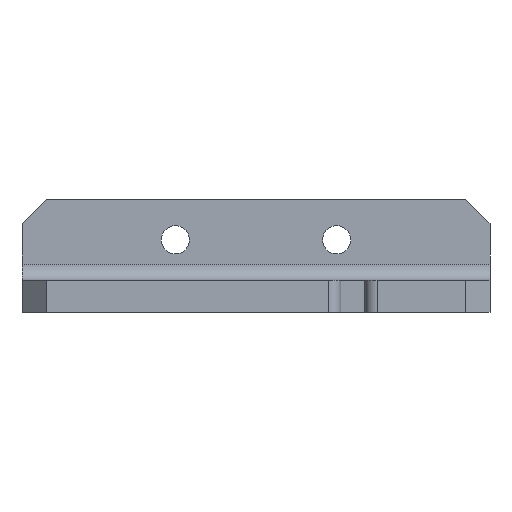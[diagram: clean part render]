
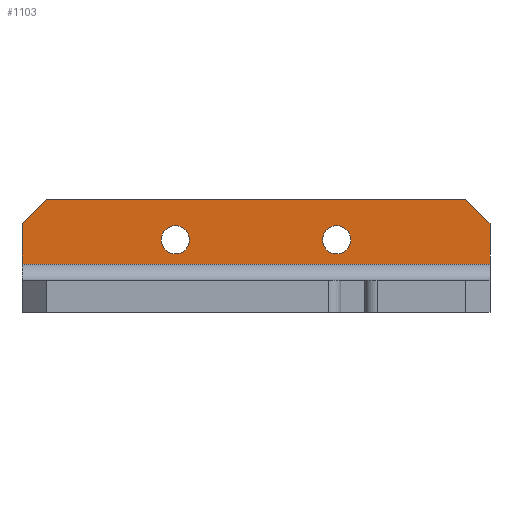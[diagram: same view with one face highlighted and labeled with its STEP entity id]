
A CAD part, front view. The second image highlights one B-rep face of the part: STEP entity #1103.
In plain terms, the highlighted planar face has unit normal (0, -1, 0).
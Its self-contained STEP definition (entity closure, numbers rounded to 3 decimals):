
#136=CIRCLE('',#1175,1.75);
#137=CIRCLE('',#1176,1.75);
#226=VERTEX_POINT('',#1666);
#227=VERTEX_POINT('',#1668);
#228=VERTEX_POINT('',#1672);
#229=VERTEX_POINT('',#1674);
#230=VERTEX_POINT('',#1676);
#231=VERTEX_POINT('',#1678);
#232=VERTEX_POINT('',#1681);
#233=VERTEX_POINT('',#1683);
#342=VECTOR('',#1379,1.);
#343=VECTOR('',#1383,1.);
#344=VECTOR('',#1384,1.);
#345=VECTOR('',#1385,1.);
#346=VECTOR('',#1386,1.);
#347=VECTOR('',#1387,1.);
#461=LINE('',#1667,#342);
#462=LINE('',#1671,#343);
#463=LINE('',#1673,#344);
#464=LINE('',#1675,#345);
#465=LINE('',#1677,#346);
#466=LINE('',#1679,#347);
#603=EDGE_CURVE('',#226,#227,#461,.T.);
#605=EDGE_CURVE('',#226,#228,#462,.T.);
#606=EDGE_CURVE('',#229,#228,#463,.T.);
#607=EDGE_CURVE('',#229,#230,#464,.T.);
#608=EDGE_CURVE('',#231,#230,#465,.T.);
#609=EDGE_CURVE('',#227,#231,#466,.T.);
#610=EDGE_CURVE('',#232,#232,#136,.T.);
#611=EDGE_CURVE('',#233,#233,#137,.T.);
#865=ORIENTED_EDGE('',*,*,#603,.F.);
#866=ORIENTED_EDGE('',*,*,#605,.T.);
#867=ORIENTED_EDGE('',*,*,#606,.F.);
#868=ORIENTED_EDGE('',*,*,#607,.T.);
#869=ORIENTED_EDGE('',*,*,#608,.F.);
#870=ORIENTED_EDGE('',*,*,#609,.F.);
#871=ORIENTED_EDGE('',*,*,#610,.T.);
#872=ORIENTED_EDGE('',*,*,#611,.T.);
#973=EDGE_LOOP('',(#865,#866,#867,#868,#869,#870));
#974=EDGE_LOOP('',(#871));
#975=EDGE_LOOP('',(#872));
#1044=FACE_BOUND('',#973,.T.);
#1045=FACE_BOUND('',#974,.T.);
#1046=FACE_BOUND('',#975,.T.);
#1103=ADVANCED_FACE('',(#1044,#1045,#1046),#1743,.T.);
#1174=AXIS2_PLACEMENT_3D('',#1670,#1382,$);
#1175=AXIS2_PLACEMENT_3D('',#1680,#1388,#1389);
#1176=AXIS2_PLACEMENT_3D('',#1682,#1390,#1391);
#1379=DIRECTION('',(-1.,0.,0.));
#1382=DIRECTION('',(0.,-1.,0.));
#1383=DIRECTION('',(0.,0.,1.));
#1384=DIRECTION('',(0.707,0.,-0.707));
#1385=DIRECTION('',(-1.,0.,0.));
#1386=DIRECTION('',(0.707,0.,0.707));
#1387=DIRECTION('',(0.,0.,1.));
#1388=DIRECTION('',(0.,1.,0.));
#1389=DIRECTION('',(1.75,0.,0.));
#1390=DIRECTION('',(0.,1.,0.));
#1391=DIRECTION('',(-1.75,0.,0.));
#1666=CARTESIAN_POINT('',(29.,16.,6.));
#1667=CARTESIAN_POINT('',(0.,16.,6.));
#1668=CARTESIAN_POINT('',(-29.,16.,6.));
#1670=CARTESIAN_POINT('',(0.,16.,0.));
#1671=CARTESIAN_POINT('',(29.,16.,0.));
#1672=CARTESIAN_POINT('',(29.,16.,11.));
#1673=CARTESIAN_POINT('',(23.75,16.,16.25));
#1674=CARTESIAN_POINT('',(26.,16.,14.));
#1675=CARTESIAN_POINT('',(29.,16.,14.));
#1676=CARTESIAN_POINT('',(-26.,16.,14.));
#1677=CARTESIAN_POINT('',(-23.75,16.,16.25));
#1678=CARTESIAN_POINT('',(-29.,16.,11.));
#1679=CARTESIAN_POINT('',(-29.,16.,0.));
#1680=CARTESIAN_POINT('',(-10.,16.,9.));
#1681=CARTESIAN_POINT('',(-11.75,16.,9.));
#1682=CARTESIAN_POINT('',(10.,16.,9.));
#1683=CARTESIAN_POINT('',(11.75,16.,9.));
#1743=PLANE('',#1174);
